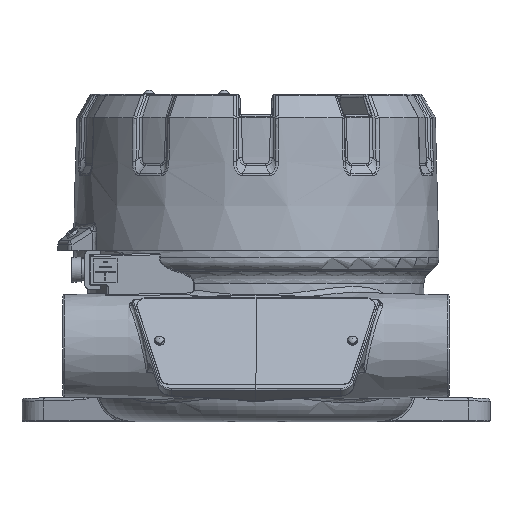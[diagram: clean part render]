
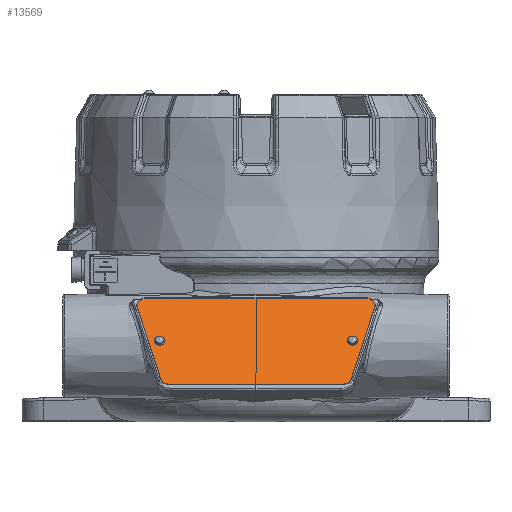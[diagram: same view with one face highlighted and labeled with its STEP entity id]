
A CAD part, front view. The second image highlights one B-rep face of the part: STEP entity #13569.
In plain terms, the highlighted planar face has unit normal (0, -0.819, 0.574).
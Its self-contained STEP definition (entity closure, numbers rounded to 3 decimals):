
#13569=ADVANCED_FACE('',(#59411,#59413,#59415),#59417,.T.);
#59411=FACE_BOUND('',#59412,.T.);
#59412=EDGE_LOOP('',(#66958,#66959,#66960,#66961,#66962,#66963,#66964,#66965));
#59413=FACE_BOUND('',#59414,.T.);
#59414=EDGE_LOOP('',(#66966));
#59415=FACE_BOUND('',#59416,.T.);
#59416=EDGE_LOOP('',(#66967));
#59417=PLANE('',#59418);
#59418=AXIS2_PLACEMENT_3D('',#59419,#59420,#59421);
#59419=CARTESIAN_POINT('',(0.,-72.568,27.683));
#59420=DIRECTION('',(0.,-0.819,0.574));
#59421=DIRECTION('',(-1.,0.,0.));
#66958=ORIENTED_EDGE('',*,*,#70718,.T.);
#66959=ORIENTED_EDGE('',*,*,#70719,.T.);
#66960=ORIENTED_EDGE('',*,*,#70720,.T.);
#66961=ORIENTED_EDGE('',*,*,#70721,.T.);
#66962=ORIENTED_EDGE('',*,*,#70722,.T.);
#66963=ORIENTED_EDGE('',*,*,#70723,.T.);
#66964=ORIENTED_EDGE('',*,*,#70724,.T.);
#66965=ORIENTED_EDGE('',*,*,#70725,.T.);
#66966=ORIENTED_EDGE('',*,*,#70726,.T.);
#66967=ORIENTED_EDGE('',*,*,#70727,.T.);
#70718=EDGE_CURVE('',#76610,#76611,#76612,.T.);
#70719=EDGE_CURVE('',#76611,#76613,#76614,.T.);
#70720=EDGE_CURVE('',#76613,#76615,#76616,.T.);
#70721=EDGE_CURVE('',#76615,#76617,#76618,.T.);
#70722=EDGE_CURVE('',#76617,#76619,#76620,.T.);
#70723=EDGE_CURVE('',#76619,#76621,#76622,.T.);
#70724=EDGE_CURVE('',#76621,#76623,#76624,.T.);
#70725=EDGE_CURVE('',#76623,#76610,#76625,.T.);
#70726=EDGE_CURVE('',#76626,#76626,#76627,.F.);
#70727=EDGE_CURVE('',#76628,#76628,#76629,.F.);
#76610=VERTEX_POINT('',#115306);
#76611=VERTEX_POINT('',#115307);
#76612=LINE('',#115308,#115309);
#76613=VERTEX_POINT('',#115311);
#76614=CIRCLE('',#115312,3.);
#76615=VERTEX_POINT('',#115316);
#76616=LINE('',#115317,#115318);
#76617=VERTEX_POINT('',#115320);
#76618=CIRCLE('',#115321,3.);
#76619=VERTEX_POINT('',#115325);
#76620=LINE('',#115326,#115327);
#76621=VERTEX_POINT('',#115329);
#76622=CIRCLE('',#115330,3.);
#76623=VERTEX_POINT('',#115334);
#76624=LINE('',#115335,#115336);
#76625=CIRCLE('',#115338,3.);
#76626=VERTEX_POINT('',#115342);
#76627=CIRCLE('',#115343,1.25);
#76628=VERTEX_POINT('',#115347);
#76629=CIRCLE('',#115348,1.25);
#115306=CARTESIAN_POINT('',(32.596,-81.617,14.76));
#115307=CARTESIAN_POINT('',(40.634,-64.41,39.334));
#115308=CARTESIAN_POINT('',(32.596,-81.617,14.76));
#115309=VECTOR('',#115310,1.);
#115310=DIRECTION('',(0.259,0.554,0.791));
#115311=CARTESIAN_POINT('',(37.736,-62.244,42.428));
#115312=AXIS2_PLACEMENT_3D('',#115313,#115314,#115315);
#115313=CARTESIAN_POINT('',(37.736,-63.965,39.97));
#115314=DIRECTION('',(0.,-0.819,0.574));
#115315=DIRECTION('',(0.966,-0.148,-0.212));
#115316=CARTESIAN_POINT('',(-37.736,-62.244,42.428));
#115317=CARTESIAN_POINT('',(37.736,-62.244,42.428));
#115318=VECTOR('',#115319,1.);
#115319=DIRECTION('',(-1.,0.,0.));
#115320=CARTESIAN_POINT('',(-40.634,-64.41,39.334));
#115321=AXIS2_PLACEMENT_3D('',#115322,#115323,#115324);
#115322=CARTESIAN_POINT('',(-37.736,-63.965,39.97));
#115323=DIRECTION('',(0.,-0.819,0.574));
#115324=DIRECTION('',(0.,0.574,0.819));
#115325=CARTESIAN_POINT('',(-32.596,-81.617,14.76));
#115326=CARTESIAN_POINT('',(-40.634,-64.41,39.334));
#115327=VECTOR('',#115328,1.);
#115328=DIRECTION('',(0.259,-0.554,-0.791));
#115329=CARTESIAN_POINT('',(-29.698,-82.893,12.938));
#115330=AXIS2_PLACEMENT_3D('',#115331,#115332,#115333);
#115331=CARTESIAN_POINT('',(-29.698,-81.172,15.396));
#115332=DIRECTION('',(0.,-0.819,0.574));
#115333=DIRECTION('',(-0.966,-0.148,-0.212));
#115334=CARTESIAN_POINT('',(29.698,-82.893,12.938));
#115335=CARTESIAN_POINT('',(-29.698,-82.893,12.938));
#115336=VECTOR('',#115337,1.);
#115337=DIRECTION('',(1.,0.,0.));
#115338=AXIS2_PLACEMENT_3D('',#115339,#115340,#115341);
#115339=CARTESIAN_POINT('',(29.698,-81.172,15.396));
#115340=DIRECTION('',(0.,-0.819,0.574));
#115341=DIRECTION('',(0.,-0.574,-0.819));
#115342=CARTESIAN_POINT('',(31.75,-72.568,27.683));
#115343=AXIS2_PLACEMENT_3D('',#115344,#115345,#115346);
#115344=CARTESIAN_POINT('',(33.,-72.568,27.683));
#115345=DIRECTION('',(0.,-0.819,0.574));
#115346=DIRECTION('',(-1.,0.,0.));
#115347=CARTESIAN_POINT('',(-31.75,-72.568,27.683));
#115348=AXIS2_PLACEMENT_3D('',#115349,#115350,#115351);
#115349=CARTESIAN_POINT('',(-33.,-72.568,27.683));
#115350=DIRECTION('',(0.,-0.819,0.574));
#115351=DIRECTION('',(1.,0.,0.));
